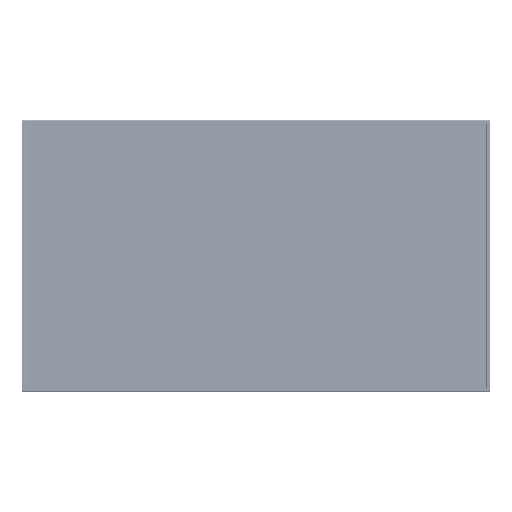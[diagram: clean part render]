
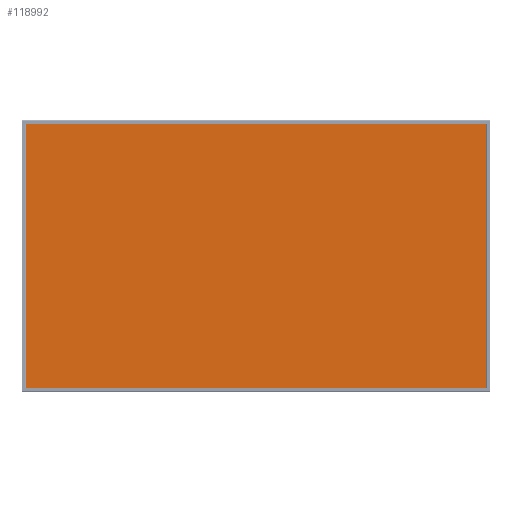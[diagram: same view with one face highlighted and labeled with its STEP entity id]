
A CAD part, top view. The second image highlights one B-rep face of the part: STEP entity #118992.
In plain terms, the highlighted planar face has unit normal (0, 0, 1).
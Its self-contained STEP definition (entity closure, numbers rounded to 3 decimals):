
#7533 = CARTESIAN_POINT ( 'NONE',  ( -667.432, -667.433, 2. ) ) ;
#12643 = CARTESIAN_POINT ( 'NONE',  ( 848.433, -486.433, 2. ) ) ;
#19092 = DIRECTION ( 'NONE',  ( 0., 0., 1. ) ) ;
#37596 = DIRECTION ( 'NONE',  ( 1., 0., 0. ) ) ;
#38777 = VERTEX_POINT ( 'NONE', #268354 ) ;
#54272 = VECTOR ( 'NONE', #181421, 1000. ) ;
#58350 = ORIENTED_EDGE ( 'NONE', *, *, #528142, .T. ) ;
#59994 = CARTESIAN_POINT ( 'NONE',  ( -848.433, -486.433, 2. ) ) ;
#73289 = CARTESIAN_POINT ( 'NONE',  ( 667.433, 667.433, 2. ) ) ;
#86055 = EDGE_CURVE ( 'NONE', #184475, #193921, #130559, .T. ) ;
#96388 = VERTEX_POINT ( 'NONE', #284418 ) ;
#116298 = CARTESIAN_POINT ( 'NONE',  ( 0., 0., 2. ) ) ;
#116705 = CARTESIAN_POINT ( 'NONE',  ( 847.433, 487.432, 2. ) ) ;
#118992 = ADVANCED_FACE ( 'NONE', ( #528237 ), #216731, .T. ) ;
#121212 = DIRECTION ( 'NONE',  ( 0.707, -0.707, 0. ) ) ;
#130559 = LINE ( 'NONE', #435477, #210713 ) ;
#140261 = VERTEX_POINT ( 'NONE', #116705 ) ;
#144260 = DIRECTION ( 'NONE',  ( 0., -1., 0. ) ) ;
#149264 = DIRECTION ( 'NONE',  ( 0., 1., 0. ) ) ;
#155878 = CARTESIAN_POINT ( 'NONE',  ( 848.432, 487.432, 2. ) ) ;
#161056 = ORIENTED_EDGE ( 'NONE', *, *, #549622, .T. ) ;
#172042 = EDGE_CURVE ( 'NONE', #140261, #184475, #228376, .T. ) ;
#180213 = EDGE_CURVE ( 'NONE', #641378, #605235, #479636, .T. ) ;
#181421 = DIRECTION ( 'NONE',  ( -1., 0., 0. ) ) ;
#184475 = VERTEX_POINT ( 'NONE', #352205 ) ;
#185188 = EDGE_LOOP ( 'NONE', ( #161056, #421983, #656667, #621670, #650766, #58350, #398091, #548676 ) ) ;
#193921 = VERTEX_POINT ( 'NONE', #311987 ) ;
#207379 = VECTOR ( 'NONE', #371560, 1000. ) ;
#210713 = VECTOR ( 'NONE', #482406, 1000. ) ;
#216731 = PLANE ( 'NONE',  #397205 ) ;
#228376 = LINE ( 'NONE', #486299, #54272 ) ;
#230586 = DIRECTION ( 'NONE',  ( -0.707, 0.707, 0. ) ) ;
#251390 = CARTESIAN_POINT ( 'NONE',  ( -848.433, 487.432, 2. ) ) ;
#266053 = EDGE_CURVE ( 'NONE', #38777, #654433, #271033, .T. ) ;
#268354 = CARTESIAN_POINT ( 'NONE',  ( 847.433, -487.433, 2. ) ) ;
#271033 = LINE ( 'NONE', #632747, #207379 ) ;
#284418 = CARTESIAN_POINT ( 'NONE',  ( 848.432, 486.433, 2. ) ) ;
#292163 = CARTESIAN_POINT ( 'NONE',  ( -848.433, -487.433, 2. ) ) ;
#303725 = VECTOR ( 'NONE', #37596, 1000. ) ;
#311987 = CARTESIAN_POINT ( 'NONE',  ( -848.433, 486.433, 2. ) ) ;
#352205 = CARTESIAN_POINT ( 'NONE',  ( -847.433, 487.432, 2. ) ) ;
#371560 = DIRECTION ( 'NONE',  ( 0.707, 0.707, 0. ) ) ;
#377566 = EDGE_CURVE ( 'NONE', #654433, #96388, #614781, .T. ) ;
#395553 = LINE ( 'NONE', #251390, #491267 ) ;
#397205 = AXIS2_PLACEMENT_3D ( 'NONE', #116298, #19092, #421148 ) ;
#398091 = ORIENTED_EDGE ( 'NONE', *, *, #172042, .T. ) ;
#404499 = CARTESIAN_POINT ( 'NONE',  ( -847.433, -487.433, 2. ) ) ;
#411564 = EDGE_CURVE ( 'NONE', #605235, #38777, #662988, .T. ) ;
#421148 = DIRECTION ( 'NONE',  ( 1., 0., 0. ) ) ;
#421983 = ORIENTED_EDGE ( 'NONE', *, *, #180213, .T. ) ;
#423839 = VECTOR ( 'NONE', #230586, 1000. ) ;
#435477 = CARTESIAN_POINT ( 'NONE',  ( -667.433, 667.433, 2. ) ) ;
#479636 = LINE ( 'NONE', #7533, #647411 ) ;
#482406 = DIRECTION ( 'NONE',  ( -0.707, -0.707, 0. ) ) ;
#485217 = LINE ( 'NONE', #73289, #423839 ) ;
#486299 = CARTESIAN_POINT ( 'NONE',  ( -848.433, 487.432, 2. ) ) ;
#491267 = VECTOR ( 'NONE', #144260, 1000. ) ;
#528142 = EDGE_CURVE ( 'NONE', #96388, #140261, #485217, .T. ) ;
#528237 = FACE_OUTER_BOUND ( 'NONE', #185188, .T. ) ;
#548676 = ORIENTED_EDGE ( 'NONE', *, *, #86055, .T. ) ;
#549622 = EDGE_CURVE ( 'NONE', #193921, #641378, #395553, .T. ) ;
#598366 = VECTOR ( 'NONE', #149264, 1000. ) ;
#605235 = VERTEX_POINT ( 'NONE', #404499 ) ;
#614781 = LINE ( 'NONE', #155878, #598366 ) ;
#621670 = ORIENTED_EDGE ( 'NONE', *, *, #266053, .T. ) ;
#632747 = CARTESIAN_POINT ( 'NONE',  ( 667.432, -667.433, 2. ) ) ;
#641378 = VERTEX_POINT ( 'NONE', #59994 ) ;
#647411 = VECTOR ( 'NONE', #121212, 1000. ) ;
#650766 = ORIENTED_EDGE ( 'NONE', *, *, #377566, .T. ) ;
#654433 = VERTEX_POINT ( 'NONE', #12643 ) ;
#656667 = ORIENTED_EDGE ( 'NONE', *, *, #411564, .T. ) ;
#662988 = LINE ( 'NONE', #292163, #303725 ) ;
